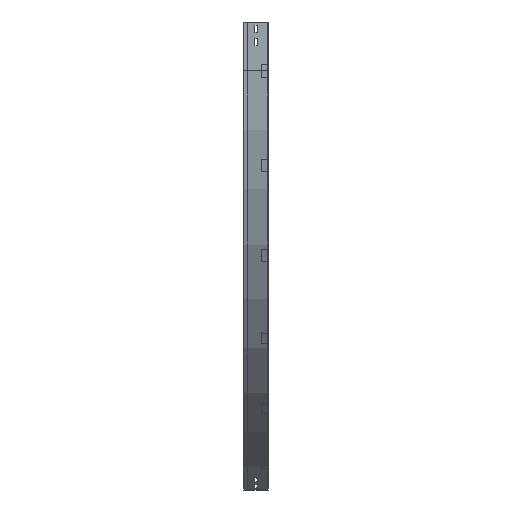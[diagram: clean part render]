
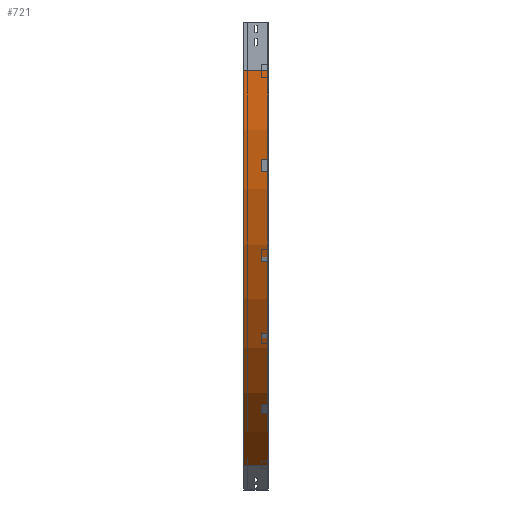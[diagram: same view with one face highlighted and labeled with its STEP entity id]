
A CAD part, left-side view. The second image highlights one B-rep face of the part: STEP entity #721.
In plain terms, the highlighted cylindrical face has radius 1400 mm (diameter 2800 mm), a partial arc.
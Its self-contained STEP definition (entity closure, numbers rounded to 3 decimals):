
#48 = CARTESIAN_POINT ( 'NONE',  ( 1400., 0., -150. ) ) ;
#131 = ORIENTED_EDGE ( 'NONE', *, *, #160, .T. ) ;
#160 = EDGE_CURVE ( 'NONE', #752, #2816, #3832, .T. ) ;
#334 = DIRECTION ( 'NONE',  ( 0., -1., 0. ) ) ;
#408 = ORIENTED_EDGE ( 'NONE', *, *, #2268, .F. ) ;
#558 = CARTESIAN_POINT ( 'NONE',  ( 700., 75., -1362.436 ) ) ;
#616 = DIRECTION ( 'NONE',  ( 0., -1., 0. ) ) ;
#657 = EDGE_CURVE ( 'NONE', #2012, #752, #2249, .T. ) ;
#686 = CIRCLE ( 'NONE', #812, 1400. ) ;
#721 = ADVANCED_FACE ( 'NONE', ( #3628 ), #1775, .T. ) ;
#752 = VERTEX_POINT ( 'NONE', #558 ) ;
#812 = AXIS2_PLACEMENT_3D ( 'NONE', #48, #1552, #1575 ) ;
#830 = EDGE_LOOP ( 'NONE', ( #408, #3097, #2702, #131 ) ) ;
#897 = DIRECTION ( 'NONE',  ( -1., 0., 0. ) ) ;
#1033 = VECTOR ( 'NONE', #3537, 1000. ) ;
#1099 = CARTESIAN_POINT ( 'NONE',  ( 700., 0., -1362.436 ) ) ;
#1170 = CARTESIAN_POINT ( 'NONE',  ( 1400., 0., -150. ) ) ;
#1176 = AXIS2_PLACEMENT_3D ( 'NONE', #1170, #616, #2972 ) ;
#1552 = DIRECTION ( 'NONE',  ( 0., -1., 0. ) ) ;
#1567 = CARTESIAN_POINT ( 'NONE',  ( 700., 0., -1362.436 ) ) ;
#1575 = DIRECTION ( 'NONE',  ( -1., 0., 0. ) ) ;
#1775 = CYLINDRICAL_SURFACE ( 'NONE', #1176, 1400. ) ;
#1795 = VECTOR ( 'NONE', #334, 1000. ) ;
#2012 = VERTEX_POINT ( 'NONE', #2910 ) ;
#2249 = CIRCLE ( 'NONE', #3755, 1400. ) ;
#2268 = EDGE_CURVE ( 'NONE', #3658, #2816, #686, .T. ) ;
#2671 = CARTESIAN_POINT ( 'NONE',  ( 0., 0., -150. ) ) ;
#2702 = ORIENTED_EDGE ( 'NONE', *, *, #657, .T. ) ;
#2816 = VERTEX_POINT ( 'NONE', #1567 ) ;
#2910 = CARTESIAN_POINT ( 'NONE',  ( 0., 75., -150. ) ) ;
#2972 = DIRECTION ( 'NONE',  ( 0., 0., -1. ) ) ;
#2994 = CARTESIAN_POINT ( 'NONE',  ( 1400., 75., -150. ) ) ;
#3097 = ORIENTED_EDGE ( 'NONE', *, *, #3731, .F. ) ;
#3276 = DIRECTION ( 'NONE',  ( 0., -1., 0. ) ) ;
#3303 = CARTESIAN_POINT ( 'NONE',  ( 0., 0., -150. ) ) ;
#3537 = DIRECTION ( 'NONE',  ( 0., -1., 0. ) ) ;
#3558 = LINE ( 'NONE', #3303, #1795 ) ;
#3628 = FACE_OUTER_BOUND ( 'NONE', #830, .T. ) ;
#3658 = VERTEX_POINT ( 'NONE', #2671 ) ;
#3731 = EDGE_CURVE ( 'NONE', #2012, #3658, #3558, .T. ) ;
#3755 = AXIS2_PLACEMENT_3D ( 'NONE', #2994, #3276, #897 ) ;
#3832 = LINE ( 'NONE', #1099, #1033 ) ;
